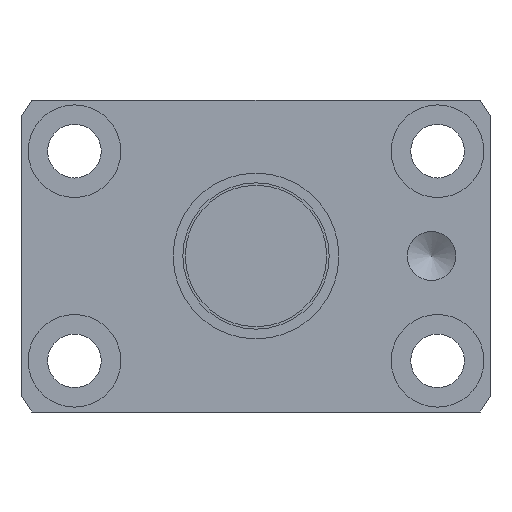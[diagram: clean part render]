
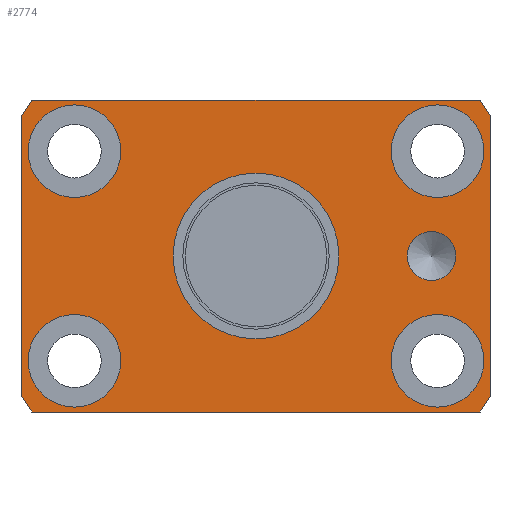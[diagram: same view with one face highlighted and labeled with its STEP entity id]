
A CAD part, left-side view. The second image highlights one B-rep face of the part: STEP entity #2774.
In plain terms, the highlighted planar face has unit normal (-1, 0, 0).
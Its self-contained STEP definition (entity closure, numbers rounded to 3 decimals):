
#21 = CARTESIAN_POINT ( 'NONE',  ( 0., -18.62, 10.75 ) ) ;
#39 = CARTESIAN_POINT ( 'NONE',  ( 0., -18., 0. ) ) ;
#48 = ORIENTED_EDGE ( 'NONE', *, *, #944, .T. ) ;
#74 = EDGE_LOOP ( 'NONE', ( #48 ) ) ;
#82 = EDGE_CURVE ( 'NONE', #1426, #2778, #1435, .T. ) ;
#142 = AXIS2_PLACEMENT_3D ( 'NONE', #1034, #1818, #872 ) ;
#162 = VECTOR ( 'NONE', #648, 1000. ) ;
#169 = CARTESIAN_POINT ( 'NONE',  ( 0., -22.978, -16. ) ) ;
#176 = CARTESIAN_POINT ( 'NONE',  ( 0., 0., 0. ) ) ;
#180 = VERTEX_POINT ( 'NONE', #2082 ) ;
#213 = EDGE_CURVE ( 'NONE', #1613, #1506, #942, .T. ) ;
#244 = VERTEX_POINT ( 'NONE', #2020 ) ;
#260 = VERTEX_POINT ( 'NONE', #291 ) ;
#263 = CARTESIAN_POINT ( 'NONE',  ( 0., 0., 0. ) ) ;
#277 = CARTESIAN_POINT ( 'NONE',  ( 0., 8.5, 0. ) ) ;
#291 = CARTESIAN_POINT ( 'NONE',  ( 0., -18., 2.5 ) ) ;
#294 = DIRECTION ( 'NONE',  ( 1., 0., 0. ) ) ;
#334 = CARTESIAN_POINT ( 'NONE',  ( 0., -18.62, -10.75 ) ) ;
#388 = EDGE_LOOP ( 'NONE', ( #1137 ) ) ;
#517 = CIRCLE ( 'NONE', #2413, 2.5 ) ;
#547 = CARTESIAN_POINT ( 'NONE',  ( 0., 0., 0. ) ) ;
#602 = CARTESIAN_POINT ( 'NONE',  ( 0., 0., 0. ) ) ;
#648 = DIRECTION ( 'NONE',  ( 0., 1., 0. ) ) ;
#680 = FACE_BOUND ( 'NONE', #3196, .T. ) ;
#683 = CIRCLE ( 'NONE', #1502, 4.75 ) ;
#710 = CARTESIAN_POINT ( 'NONE',  ( 0., -24., -16. ) ) ;
#724 = CARTESIAN_POINT ( 'NONE',  ( 0., 23.37, -10.75 ) ) ;
#727 = CARTESIAN_POINT ( 'NONE',  ( 0., 12.25, 0. ) ) ;
#758 = ORIENTED_EDGE ( 'NONE', *, *, #1106, .F. ) ;
#759 = VERTEX_POINT ( 'NONE', #277 ) ;
#787 = CIRCLE ( 'NONE', #2839, 4.75 ) ;
#827 = DIRECTION ( 'NONE',  ( 1., 0., 0. ) ) ;
#835 = DIRECTION ( 'NONE',  ( 0., 1., 0. ) ) ;
#872 = DIRECTION ( 'NONE',  ( 0., 1., 0. ) ) ;
#942 = CIRCLE ( 'NONE', #142, 28. ) ;
#944 = EDGE_CURVE ( 'NONE', #244, #244, #1271, .T. ) ;
#968 = FACE_BOUND ( 'NONE', #74, .T. ) ;
#974 = ORIENTED_EDGE ( 'NONE', *, *, #2951, .F. ) ;
#1023 = VERTEX_POINT ( 'NONE', #3093 ) ;
#1033 = ORIENTED_EDGE ( 'NONE', *, *, #213, .F. ) ;
#1034 = CARTESIAN_POINT ( 'NONE',  ( 0., 0., 0. ) ) ;
#1035 = EDGE_CURVE ( 'NONE', #2640, #1613, #1382, .T. ) ;
#1049 = ORIENTED_EDGE ( 'NONE', *, *, #3286, .F. ) ;
#1106 = EDGE_CURVE ( 'NONE', #180, #2638, #1385, .T. ) ;
#1137 = ORIENTED_EDGE ( 'NONE', *, *, #2901, .T. ) ;
#1151 = EDGE_LOOP ( 'NONE', ( #1973 ) ) ;
#1173 = LINE ( 'NONE', #710, #162 ) ;
#1180 = EDGE_CURVE ( 'NONE', #2638, #2986, #2219, .T. ) ;
#1244 = DIRECTION ( 'NONE',  ( 0., 0., 1. ) ) ;
#1271 = CIRCLE ( 'NONE', #3163, 4.75 ) ;
#1314 = CARTESIAN_POINT ( 'NONE',  ( 0., -13.87, -10.75 ) ) ;
#1328 = ORIENTED_EDGE ( 'NONE', *, *, #3226, .T. ) ;
#1339 = DIRECTION ( 'NONE',  ( 0., 1., 0. ) ) ;
#1350 = DIRECTION ( 'NONE',  ( 1., 0., 0. ) ) ;
#1377 = CARTESIAN_POINT ( 'NONE',  ( 0., 22.978, 16. ) ) ;
#1379 = EDGE_LOOP ( 'NONE', ( #3326 ) ) ;
#1382 = LINE ( 'NONE', #1597, #2186 ) ;
#1385 = CIRCLE ( 'NONE', #2021, 28. ) ;
#1398 = CARTESIAN_POINT ( 'NONE',  ( 0., -22.978, 16. ) ) ;
#1413 = DIRECTION ( 'NONE',  ( 0., 1., 0. ) ) ;
#1426 = VERTEX_POINT ( 'NONE', #3247 ) ;
#1435 = CIRCLE ( 'NONE', #2510, 28. ) ;
#1485 = DIRECTION ( 'NONE',  ( -1., 0., 0. ) ) ;
#1502 = AXIS2_PLACEMENT_3D ( 'NONE', #334, #827, #1413 ) ;
#1506 = VERTEX_POINT ( 'NONE', #2072 ) ;
#1521 = ORIENTED_EDGE ( 'NONE', *, *, #1035, .F. ) ;
#1546 = AXIS2_PLACEMENT_3D ( 'NONE', #263, #3094, #2022 ) ;
#1562 = DIRECTION ( 'NONE',  ( 0., 1., 0. ) ) ;
#1597 = CARTESIAN_POINT ( 'NONE',  ( 0., 24., 16. ) ) ;
#1613 = VERTEX_POINT ( 'NONE', #1398 ) ;
#1619 = DIRECTION ( 'NONE',  ( 0., -1., 0. ) ) ;
#1652 = EDGE_CURVE ( 'NONE', #3079, #3079, #683, .T. ) ;
#1717 = FACE_BOUND ( 'NONE', #1379, .T. ) ;
#1723 = DIRECTION ( 'NONE',  ( 1., 0., 0. ) ) ;
#1766 = CIRCLE ( 'NONE', #1546, 8.5 ) ;
#1818 = DIRECTION ( 'NONE',  ( 1., 0., 0. ) ) ;
#1826 = EDGE_CURVE ( 'NONE', #759, #759, #1766, .T. ) ;
#1834 = ORIENTED_EDGE ( 'NONE', *, *, #2451, .F. ) ;
#1857 = DIRECTION ( 'NONE',  ( 0., 1., 0. ) ) ;
#1879 = LINE ( 'NONE', #2575, #3015 ) ;
#1949 = FACE_BOUND ( 'NONE', #2626, .T. ) ;
#1973 = ORIENTED_EDGE ( 'NONE', *, *, #1826, .T. ) ;
#1977 = VECTOR ( 'NONE', #3004, 1000. ) ;
#1989 = CIRCLE ( 'NONE', #2895, 4.75 ) ;
#2009 = PLANE ( 'NONE',  #2957 ) ;
#2020 = CARTESIAN_POINT ( 'NONE',  ( 0., -13.87, 10.75 ) ) ;
#2021 = AXIS2_PLACEMENT_3D ( 'NONE', #176, #1723, #2461 ) ;
#2022 = DIRECTION ( 'NONE',  ( 0., 1., 0. ) ) ;
#2023 = CARTESIAN_POINT ( 'NONE',  ( 0., 18.62, 10.75 ) ) ;
#2066 = CARTESIAN_POINT ( 'NONE',  ( 0., 24., 14.422 ) ) ;
#2071 = CIRCLE ( 'NONE', #2516, 28. ) ;
#2072 = CARTESIAN_POINT ( 'NONE',  ( 0., -24., 14.422 ) ) ;
#2082 = CARTESIAN_POINT ( 'NONE',  ( 0., 22.978, -16. ) ) ;
#2090 = EDGE_CURVE ( 'NONE', #2986, #2640, #2071, .T. ) ;
#2186 = VECTOR ( 'NONE', #1619, 1000. ) ;
#2219 = LINE ( 'NONE', #3258, #1977 ) ;
#2303 = DIRECTION ( 'NONE',  ( 1., 0., 0. ) ) ;
#2334 = DIRECTION ( 'NONE',  ( 0., 1., 0. ) ) ;
#2335 = DIRECTION ( 'NONE',  ( 1., 0., 0. ) ) ;
#2404 = CARTESIAN_POINT ( 'NONE',  ( 0., 24., -14.422 ) ) ;
#2413 = AXIS2_PLACEMENT_3D ( 'NONE', #39, #2853, #2818 ) ;
#2451 = EDGE_CURVE ( 'NONE', #260, #260, #517, .T. ) ;
#2461 = DIRECTION ( 'NONE',  ( 0., 1., 0. ) ) ;
#2490 = FACE_BOUND ( 'NONE', #1151, .T. ) ;
#2510 = AXIS2_PLACEMENT_3D ( 'NONE', #547, #1350, #2334 ) ;
#2516 = AXIS2_PLACEMENT_3D ( 'NONE', #602, #2335, #835 ) ;
#2524 = FACE_BOUND ( 'NONE', #388, .T. ) ;
#2543 = ORIENTED_EDGE ( 'NONE', *, *, #2090, .F. ) ;
#2557 = ORIENTED_EDGE ( 'NONE', *, *, #1180, .F. ) ;
#2575 = CARTESIAN_POINT ( 'NONE',  ( 0., -24., 16. ) ) ;
#2614 = DIRECTION ( 'NONE',  ( 1., 0., 0. ) ) ;
#2626 = EDGE_LOOP ( 'NONE', ( #1328 ) ) ;
#2638 = VERTEX_POINT ( 'NONE', #2404 ) ;
#2640 = VERTEX_POINT ( 'NONE', #1377 ) ;
#2753 = FACE_OUTER_BOUND ( 'NONE', #2810, .T. ) ;
#2774 = ADVANCED_FACE ( 'NONE', ( #680, #1949, #968, #2524, #1717, #2753, #2490 ), #2009, .T. ) ;
#2778 = VERTEX_POINT ( 'NONE', #169 ) ;
#2810 = EDGE_LOOP ( 'NONE', ( #1049, #3298, #974, #1033, #1521, #2543, #2557, #758 ) ) ;
#2818 = DIRECTION ( 'NONE',  ( 0., 0., 1. ) ) ;
#2839 = AXIS2_PLACEMENT_3D ( 'NONE', #2023, #294, #1339 ) ;
#2853 = DIRECTION ( 'NONE',  ( -1., 0., 0. ) ) ;
#2895 = AXIS2_PLACEMENT_3D ( 'NONE', #3147, #2614, #1857 ) ;
#2901 = EDGE_CURVE ( 'NONE', #1023, #1023, #787, .T. ) ;
#2951 = EDGE_CURVE ( 'NONE', #1506, #1426, #1879, .T. ) ;
#2957 = AXIS2_PLACEMENT_3D ( 'NONE', #727, #1485, #1244 ) ;
#2986 = VERTEX_POINT ( 'NONE', #2066 ) ;
#3004 = DIRECTION ( 'NONE',  ( 0., 0., 1. ) ) ;
#3015 = VECTOR ( 'NONE', #3334, 1000. ) ;
#3050 = VERTEX_POINT ( 'NONE', #724 ) ;
#3079 = VERTEX_POINT ( 'NONE', #1314 ) ;
#3093 = CARTESIAN_POINT ( 'NONE',  ( 0., 23.37, 10.75 ) ) ;
#3094 = DIRECTION ( 'NONE',  ( 1., 0., 0. ) ) ;
#3147 = CARTESIAN_POINT ( 'NONE',  ( 0., 18.62, -10.75 ) ) ;
#3163 = AXIS2_PLACEMENT_3D ( 'NONE', #21, #2303, #1562 ) ;
#3196 = EDGE_LOOP ( 'NONE', ( #1834 ) ) ;
#3226 = EDGE_CURVE ( 'NONE', #3050, #3050, #1989, .T. ) ;
#3247 = CARTESIAN_POINT ( 'NONE',  ( 0., -24., -14.422 ) ) ;
#3258 = CARTESIAN_POINT ( 'NONE',  ( 0., 24., -16. ) ) ;
#3286 = EDGE_CURVE ( 'NONE', #2778, #180, #1173, .T. ) ;
#3298 = ORIENTED_EDGE ( 'NONE', *, *, #82, .F. ) ;
#3326 = ORIENTED_EDGE ( 'NONE', *, *, #1652, .T. ) ;
#3334 = DIRECTION ( 'NONE',  ( 0., 0., -1. ) ) ;
